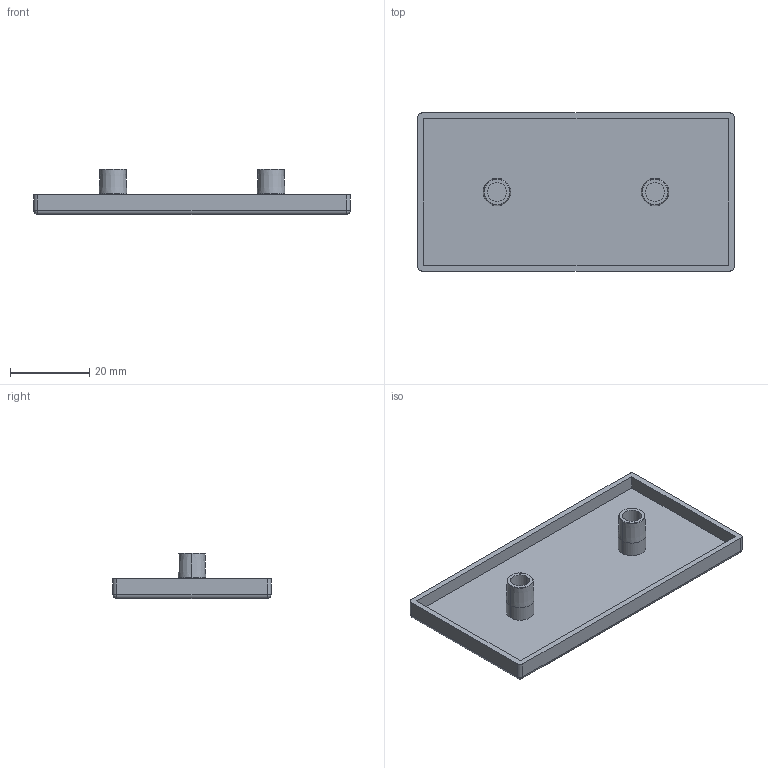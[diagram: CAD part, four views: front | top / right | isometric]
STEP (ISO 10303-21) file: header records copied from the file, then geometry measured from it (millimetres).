
FILE_DESCRIPTION (( 'STEP AP203' ), '1' );
FILE_NAME ('DEC4080.STEP', '2022-06-24T02:30:31', ( '' ), ( '' ), 'SwSTEP 2.0', 'SolidWorks 2017', '' );
FILE_SCHEMA (( 'CONFIG_CONTROL_DESIGN' ));
Length unit declared in the file: millimetre
Products named in the file (1): DEC4080
Bounding box: 80 x 40 x 11.4 mm (x, y, z)
Volume: 6351.1 mm3; surface area: 9001.4 mm2
Topology: 1 solids, 1 shells, 43 faces, 92 edges, 52 vertices
Faces by surface type: cylinder 16, plane 15, torus 4, cone 4, sphere 4
Entity records: 1203 total; most frequent: DIRECTION 220, CARTESIAN_POINT 184, ORIENTED_EDGE 176, AXIS2_PLACEMENT_3D 88, EDGE_CURVE 88, VERTEX_POINT 52, EDGE_LOOP 48, VECTOR 44
